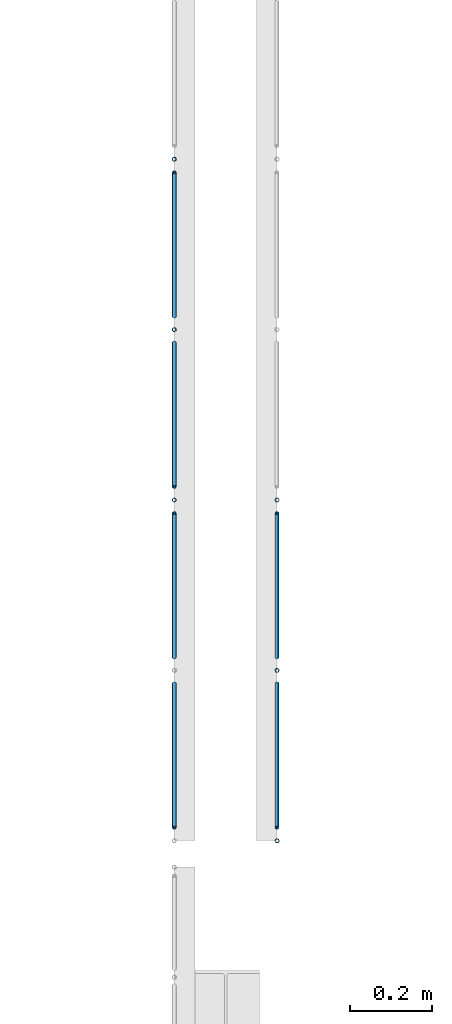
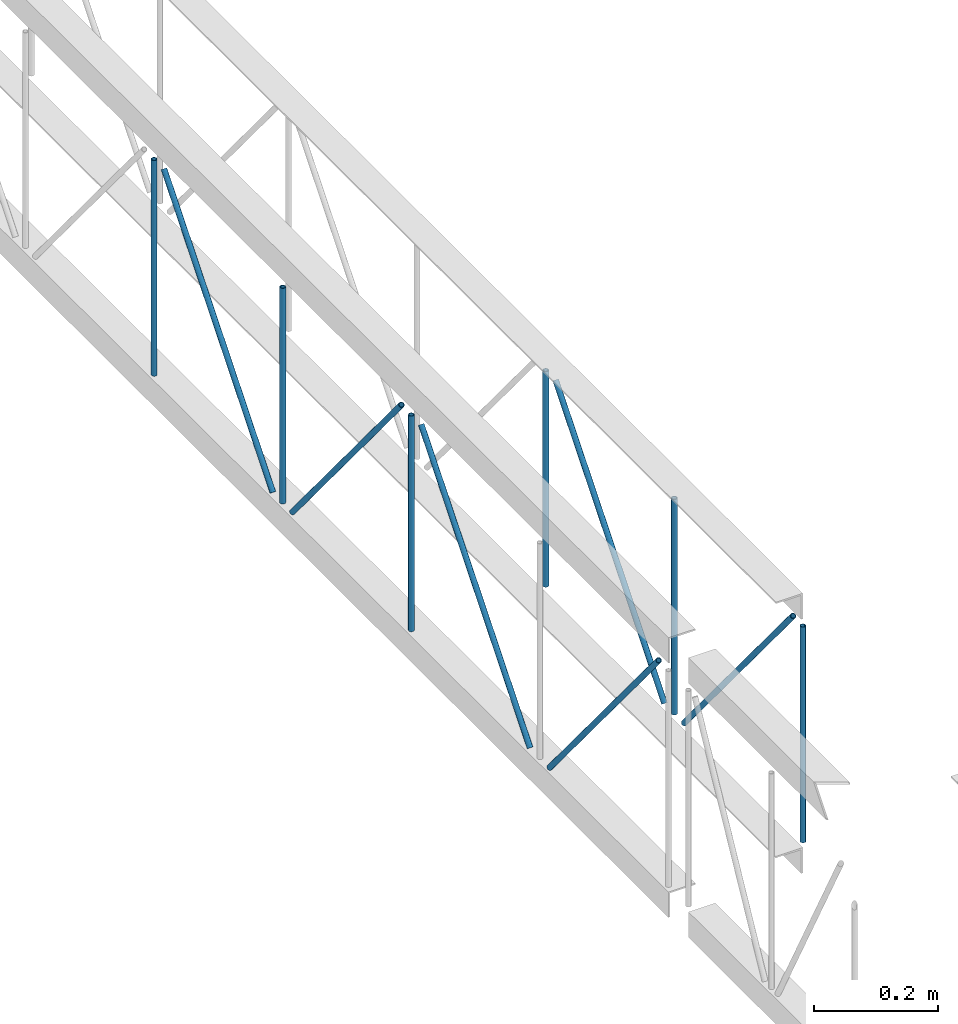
# One storey, part 55 of 153: 12 members, 2 elements without a shape of their own.
"""IFC4 building model written with IfcOpenShell, lengths in metres."""

from ifc_helpers import new_model, entity, si_unit, converted_unit, derived_unit, direction, frame, origin, place, context, subcontext, project, spatial, arc, indexed_curve, outline, extrude, source, transform, mapped, material, type_object, type_shapes, element, aggregate, save


model = new_model("IFC4")

# Units and contexts
model_context = context("Model", 3, precision=1e-05, world=origin(), true_north=direction((6.123031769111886e-17, 1.0)))
body_context = subcontext(model_context, "Body", "Model", "MODEL_VIEW")
ifc_project = project(units=[si_unit("LENGTHUNIT", "METRE"), si_unit("AREAUNIT", "SQUARE_METRE"), si_unit("VOLUMEUNIT", "CUBIC_METRE"), converted_unit("PLANEANGLEUNIT", "DEGREE", entity("IfcRatioMeasure", 0.017453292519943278), si_unit("PLANEANGLEUNIT", "RADIAN"), dimensions=[0, 0, 0, 0, 0, 0, 0]), si_unit("MASSUNIT", "GRAM", prefix="KILO"), derived_unit("MASSDENSITYUNIT", [(si_unit("MASSUNIT", "GRAM", prefix="KILO"), 1), (si_unit("LENGTHUNIT", "METRE"), -3)]), derived_unit("MOMENTOFINERTIAUNIT", [(si_unit("LENGTHUNIT", "METRE"), 4)]), si_unit("TIMEUNIT", "SECOND"), si_unit("FREQUENCYUNIT", "HERTZ"), si_unit("THERMODYNAMICTEMPERATUREUNIT", "DEGREE_CELSIUS"), derived_unit("THERMALTRANSMITTANCEUNIT", [(si_unit("MASSUNIT", "GRAM", prefix="KILO"), 1), (si_unit("THERMODYNAMICTEMPERATUREUNIT", "KELVIN"), -1), (si_unit("TIMEUNIT", "SECOND"), -3)]), derived_unit("VOLUMETRICFLOWRATEUNIT", [(si_unit("LENGTHUNIT", "METRE"), 3), (si_unit("TIMEUNIT", "SECOND"), -1)]), derived_unit("MASSFLOWRATEUNIT", [(si_unit("MASSUNIT", "GRAM", prefix="KILO"), 1), (si_unit("TIMEUNIT", "SECOND"), -1)]), derived_unit("ROTATIONALFREQUENCYUNIT", [(si_unit("TIMEUNIT", "SECOND"), -1)]), si_unit("ELECTRICCURRENTUNIT", "AMPERE"), si_unit("ELECTRICVOLTAGEUNIT", "VOLT"), si_unit("POWERUNIT", "WATT"), si_unit("FORCEUNIT", "NEWTON", prefix="KILO"), si_unit("ILLUMINANCEUNIT", "LUX"), si_unit("LUMINOUSFLUXUNIT", "LUMEN"), si_unit("LUMINOUSINTENSITYUNIT", "CANDELA"), derived_unit("USERDEFINED", [(si_unit("MASSUNIT", "GRAM", prefix="KILO"), -1), (si_unit("LENGTHUNIT", "METRE"), -2), (si_unit("TIMEUNIT", "SECOND"), 3), (si_unit("LUMINOUSFLUXUNIT", "LUMEN"), 1)]), derived_unit("SOUNDPOWERUNIT", [(si_unit("MASSUNIT", "GRAM", prefix="KILO"), 1), (si_unit("LENGTHUNIT", "METRE"), 2), (si_unit("TIMEUNIT", "SECOND"), -3)]), derived_unit("SOUNDPRESSUREUNIT", [(si_unit("MASSUNIT", "GRAM", prefix="KILO"), 1), (si_unit("LENGTHUNIT", "METRE"), -1), (si_unit("TIMEUNIT", "SECOND"), -2)]), derived_unit("LINEARVELOCITYUNIT", [(si_unit("LENGTHUNIT", "METRE"), 1), (si_unit("TIMEUNIT", "SECOND"), -1)]), si_unit("PRESSUREUNIT", "PASCAL"), derived_unit("USERDEFINED", [(si_unit("LENGTHUNIT", "METRE"), -2), (si_unit("MASSUNIT", "GRAM", prefix="KILO"), 1), (si_unit("TIMEUNIT", "SECOND"), -2)]), derived_unit("LINEARFORCEUNIT", [(si_unit("MASSUNIT", "GRAM", prefix="KILO"), 1), (si_unit("LENGTHUNIT", "METRE"), 1), (si_unit("TIMEUNIT", "SECOND"), -2), (si_unit("LENGTHUNIT", "METRE"), -1)]), derived_unit("PLANARFORCEUNIT", [(si_unit("MASSUNIT", "GRAM", prefix="KILO"), 1), (si_unit("LENGTHUNIT", "METRE"), 1), (si_unit("TIMEUNIT", "SECOND"), -2), (si_unit("LENGTHUNIT", "METRE"), -2)])], contexts=[model_context])

# Site, building, storey
site_placement = place(None, origin())
site = spatial("IfcSite", under=ifc_project, at=site_placement, Name="Superficie", CompositionType="ELEMENT")
building_placement = place(site_placement, origin())
building = spatial("IfcBuilding", under=site, at=building_placement, CompositionType="ELEMENT")
storey_placement = place(building_placement, frame((0.0, 0.0, 3.5999999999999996)))
storey = spatial("IfcBuildingStorey", under=building, at=storey_placement, Name="Nivel 1", CompositionType="ELEMENT", Elevation=3.5999999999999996)

# Assembly, members
assembly_1_placement = place(storey_placement, origin())
assembly_1 = element("IfcElementAssembly", 1, at=assembly_1_placement, inside=storey, Name="Viga de celosia 13:Viga de celosia 13", ObjectType="Viga de celosia 13:Viga de celosia 13", AssemblyPlace="NOTDEFINED", PredefinedType="TRUSS")
ifc_material = material(Name="Metal - Calibre delgado", Category="Metal")
member_type_1 = type_object("IfcMemberType", Name="HSS-Tubo estructural redondo:HSS 0.01", PredefinedType="BRACE", material=ifc_material)
shared_shape_1 = source(origin(), body_context, "Body", "SweptSolid", [
    extrude(outline(indexed_curve([(-0.005000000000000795, 7.502054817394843e-18), (-9.800269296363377e-18, -0.005000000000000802), (0.005000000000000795, -7.502054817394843e-18), (8.07772287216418e-18, 0.005000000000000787)], segments=[arc(1, 2, 3), arc(3, 4, 1)], self_intersect=False), holes=[indexed_curve([(0.003999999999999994, 7.222511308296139e-17), (6.910645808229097e-17, -0.004000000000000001), (-0.003999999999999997, -1.8650054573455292e-17), (-2.9156497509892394e-17, 0.003999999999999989)], segments=[arc(1, 2, 3), arc(3, 4, 1)], self_intersect=False)]), frame((-0.21200000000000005, 0.0, 0.0), z_axis=(1.0, 0.0, 0.0), x_axis=(0.0, 1.0, 0.0)), (0.0, 0.0, 1.0), 0.4240000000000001),
])
type_shapes(member_type_1, [shared_shape_1])
member_1_placement = place(assembly_1_placement, frame((1.036799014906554, -8.305759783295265, 0.25), z_axis=(0.0, 1.0, 0.0), x_axis=(0.0, 0.0, 1.0)))
member_1 = element("IfcMember", 2, at=member_1_placement, type_object=member_type_1, material=ifc_material, Name="HSS-Tubo estructural redondo:HSS 0.01", ObjectType="HSS-Tubo estructural redondo:HSS 0.01", PredefinedType="BRACE", context=body_context, shape_type="MappedRepresentation", body=[
    mapped(shared_shape_1, transform((0.0, 0.0, 0.0), scale=1.0)),
])
member_2_placement = place(assembly_1_placement, frame((1.0367990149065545, -7.891413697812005, 0.25), z_axis=(0.0, 1.0, 0.0), x_axis=(0.0, 0.0, 1.0)))
member_2 = element("IfcMember", 3, at=member_2_placement, type_object=member_type_1, material=ifc_material, Name="HSS-Tubo estructural redondo:HSS 0.01", ObjectType="HSS-Tubo estructural redondo:HSS 0.01", PredefinedType="BRACE", context=body_context, shape_type="MappedRepresentation", body=[
    mapped(shared_shape_1, transform((0.0, 0.0, 0.0), scale=1.0)),
])
member_3_placement = place(assembly_1_placement, frame((1.0367990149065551, -7.477067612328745, 0.25), z_axis=(0.0, 1.0, 0.0), x_axis=(0.0, 0.0, 1.0)))
member_3 = element("IfcMember", 4, at=member_3_placement, type_object=member_type_1, material=ifc_material, Name="HSS-Tubo estructural redondo:HSS 0.01", ObjectType="HSS-Tubo estructural redondo:HSS 0.01", PredefinedType="BRACE", context=body_context, shape_type="MappedRepresentation", body=[
    mapped(shared_shape_1, transform((0.0, 0.0, 0.0), scale=1.0)),
])
member_type_2 = type_object("IfcMemberType", Name="HSS-Tubo estructural redondo:HSS 0.01", PredefinedType="BRACE", material=ifc_material)
shared_shape_2 = source(origin(), body_context, "Body", "SweptSolid", [
    extrude(outline(indexed_curve([(-0.005000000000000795, 7.502054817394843e-18), (-9.800269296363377e-18, -0.005000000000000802), (0.005000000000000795, -7.502054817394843e-18), (8.07772287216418e-18, 0.005000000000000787)], segments=[arc(1, 2, 3), arc(3, 4, 1)], self_intersect=False), holes=[indexed_curve([(0.003999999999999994, 7.222511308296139e-17), (6.910645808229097e-17, -0.004000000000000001), (-0.003999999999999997, -1.8650054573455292e-17), (-2.9156497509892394e-17, 0.003999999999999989)], segments=[arc(1, 2, 3), arc(3, 4, 1)], self_intersect=False)]), frame((-0.275, 0.0, 0.0), z_axis=(1.0, 0.0, 0.0), x_axis=(0.0, 1.0, 0.0)), (0.0, 0.0, 1.0), 0.55),
])
type_shapes(member_type_2, [shared_shape_2])
member_4_placement = place(assembly_1_placement, frame((1.0367990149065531, -8.927278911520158, 0.2500000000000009), z_axis=(0.0, -0.7699758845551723, -0.638072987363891), x_axis=(0.0, 0.638072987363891, -0.7699758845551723)))
member_4 = element("IfcMember", 5, at=member_4_placement, type_object=member_type_2, material=ifc_material, Name="HSS-Tubo estructural redondo:HSS 0.01", ObjectType="HSS-Tubo estructural redondo:HSS 0.01", PredefinedType="BRACE", context=body_context, shape_type="MappedRepresentation", body=[
    mapped(shared_shape_2, transform((0.0, 0.0, 0.0), scale=1.0)),
])
member_5_placement = place(assembly_1_placement, frame((1.0367990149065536, -8.512932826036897, 0.25), z_axis=(0.0, 0.7699758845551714, -0.638072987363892), x_axis=(0.0, 0.638072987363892, 0.7699758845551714)))
member_5 = element("IfcMember", 6, at=member_5_placement, type_object=member_type_2, material=ifc_material, Name="HSS-Tubo estructural redondo:HSS 0.01", ObjectType="HSS-Tubo estructural redondo:HSS 0.01", PredefinedType="BRACE", context=body_context, shape_type="MappedRepresentation", body=[
    mapped(shared_shape_2, transform((0.0, 0.0, 0.0), scale=1.0)),
])
member_6_placement = place(assembly_1_placement, frame((1.0367990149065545, -8.098586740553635, 0.2500000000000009), z_axis=(0.0, -0.7699758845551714, -0.638072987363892), x_axis=(0.0, 0.638072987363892, -0.7699758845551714)))
member_6 = element("IfcMember", 7, at=member_6_placement, type_object=member_type_2, material=ifc_material, Name="HSS-Tubo estructural redondo:HSS 0.01", ObjectType="HSS-Tubo estructural redondo:HSS 0.01", PredefinedType="BRACE", context=body_context, shape_type="MappedRepresentation", body=[
    mapped(shared_shape_2, transform((0.0, 0.0, 0.0), scale=1.0)),
])
member_7_placement = place(assembly_1_placement, frame((1.036799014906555, -7.684240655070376, 0.25), z_axis=(0.0, 0.7699758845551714, -0.638072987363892), x_axis=(0.0, 0.638072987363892, 0.7699758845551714)))
member_7 = element("IfcMember", 8, at=member_7_placement, type_object=member_type_2, material=ifc_material, Name="HSS-Tubo estructural redondo:HSS 0.01", ObjectType="HSS-Tubo estructural redondo:HSS 0.01", PredefinedType="BRACE", context=body_context, shape_type="MappedRepresentation", body=[
    mapped(shared_shape_2, transform((0.0, 0.0, 0.0), scale=1.0)),
])
aggregate(assembly_1, [member_1, member_2, member_3, member_4, member_5, member_6, member_7])

assembly_2_placement = place(storey_placement, origin())
assembly_2 = element("IfcElementAssembly", 9, at=assembly_2_placement, inside=storey, Name="Viga de celosia 13:Viga de celosia 13", ObjectType="Viga de celosia 13:Viga de celosia 13", AssemblyPlace="NOTDEFINED", PredefinedType="TRUSS")
member_type_3 = type_object("IfcMemberType", Name="HSS-Tubo estructural redondo:HSS 0.01", PredefinedType="BRACE", material=ifc_material)
shared_shape_3 = source(origin(), body_context, "Body", "SweptSolid", [
    extrude(outline(indexed_curve([(-0.005000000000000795, 2.0824731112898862e-17), (-2.3122945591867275e-17, -0.005000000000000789), (0.005000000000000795, -2.08247311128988e-17), (2.14003991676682e-17, 0.005000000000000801)], segments=[arc(1, 2, 3), arc(3, 4, 1)], self_intersect=False), holes=[indexed_curve([(0.003999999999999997, -1.3094283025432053e-17), (-1.531427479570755e-18, -0.003999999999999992), (-0.004, 4.0098531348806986e-17), (4.1481388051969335e-17, 0.0039999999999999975)], segments=[arc(1, 2, 3), arc(3, 4, 1)], self_intersect=False)]), frame((-0.21200000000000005, 0.0, 0.0), z_axis=(1.0, 0.0, 0.0), x_axis=(0.0, -1.0, 0.0)), (0.0, 0.0, 1.0), 0.4240000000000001),
])
type_shapes(member_type_3, [shared_shape_3])
member_8_placement = place(assembly_2_placement, frame((1.2867990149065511, -9.134451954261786, 0.25), z_axis=(0.0, 1.0, 0.0), x_axis=(0.0, 0.0, 1.0)))
member_8 = element("IfcMember", 10, at=member_8_placement, type_object=member_type_3, material=ifc_material, Name="HSS-Tubo estructural redondo:HSS 0.01", ObjectType="HSS-Tubo estructural redondo:HSS 0.01", PredefinedType="BRACE", context=body_context, shape_type="MappedRepresentation", body=[
    mapped(shared_shape_3, transform((0.0, 0.0, 0.0), scale=1.0)),
])
member_9_placement = place(assembly_2_placement, frame((1.2867990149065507, -8.720105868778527, 0.25), z_axis=(0.0, 1.0, 0.0), x_axis=(0.0, 0.0, 1.0)))
member_9 = element("IfcMember", 11, at=member_9_placement, type_object=member_type_3, material=ifc_material, Name="HSS-Tubo estructural redondo:HSS 0.01", ObjectType="HSS-Tubo estructural redondo:HSS 0.01", PredefinedType="BRACE", context=body_context, shape_type="MappedRepresentation", body=[
    mapped(shared_shape_3, transform((0.0, 0.0, 0.0), scale=1.0)),
])
member_10_placement = place(assembly_2_placement, frame((1.28679901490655, -8.305759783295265, 0.25), z_axis=(0.0, 1.0, 0.0), x_axis=(0.0, 0.0, 1.0)))
member_10 = element("IfcMember", 12, at=member_10_placement, type_object=member_type_3, material=ifc_material, Name="HSS-Tubo estructural redondo:HSS 0.01", ObjectType="HSS-Tubo estructural redondo:HSS 0.01", PredefinedType="BRACE", context=body_context, shape_type="MappedRepresentation", body=[
    mapped(shared_shape_3, transform((0.0, 0.0, 0.0), scale=1.0)),
])
member_type_4 = type_object("IfcMemberType", Name="HSS-Tubo estructural redondo:HSS 0.01", PredefinedType="BRACE", material=ifc_material)
shared_shape_4 = source(origin(), body_context, "Body", "SweptSolid", [
    extrude(outline(indexed_curve([(-0.005000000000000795, 2.0824731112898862e-17), (-2.3122945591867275e-17, -0.005000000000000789), (0.005000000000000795, -2.08247311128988e-17), (2.14003991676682e-17, 0.005000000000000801)], segments=[arc(1, 2, 3), arc(3, 4, 1)], self_intersect=False), holes=[indexed_curve([(0.003999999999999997, -1.3094283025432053e-17), (-1.531427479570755e-18, -0.003999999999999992), (-0.004, 4.0098531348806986e-17), (4.1481388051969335e-17, 0.0039999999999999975)], segments=[arc(1, 2, 3), arc(3, 4, 1)], self_intersect=False)]), frame((-0.275, 0.0, 0.0), z_axis=(1.0, 0.0, 0.0), x_axis=(0.0, -1.0, 0.0)), (0.0, 0.0, 1.0), 0.55),
])
type_shapes(member_type_4, [shared_shape_4])
member_11_placement = place(assembly_2_placement, frame((1.286799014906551, -8.927278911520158, 0.2500000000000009), z_axis=(0.0, -0.7699758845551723, -0.638072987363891), x_axis=(0.0, 0.638072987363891, -0.7699758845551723)))
member_11 = element("IfcMember", 13, at=member_11_placement, type_object=member_type_4, material=ifc_material, Name="HSS-Tubo estructural redondo:HSS 0.01", ObjectType="HSS-Tubo estructural redondo:HSS 0.01", PredefinedType="BRACE", context=body_context, shape_type="MappedRepresentation", body=[
    mapped(shared_shape_4, transform((0.0, 0.0, 0.0), scale=1.0)),
])
member_12_placement = place(assembly_2_placement, frame((1.2867990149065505, -8.512932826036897, 0.25), z_axis=(0.0, 0.7699758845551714, -0.638072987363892), x_axis=(0.0, 0.638072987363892, 0.7699758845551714)))
member_12 = element("IfcMember", 14, at=member_12_placement, type_object=member_type_4, material=ifc_material, Name="HSS-Tubo estructural redondo:HSS 0.01", ObjectType="HSS-Tubo estructural redondo:HSS 0.01", PredefinedType="BRACE", context=body_context, shape_type="MappedRepresentation", body=[
    mapped(shared_shape_4, transform((0.0, 0.0, 0.0), scale=1.0)),
])
aggregate(assembly_2, [member_8, member_9, member_10, member_11, member_12])

save(model, "model.ifc")
